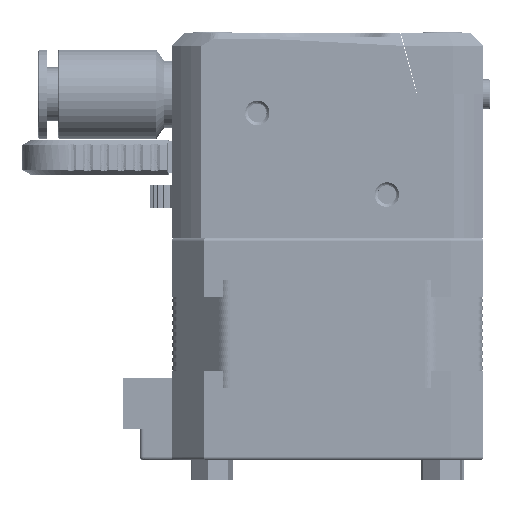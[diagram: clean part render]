
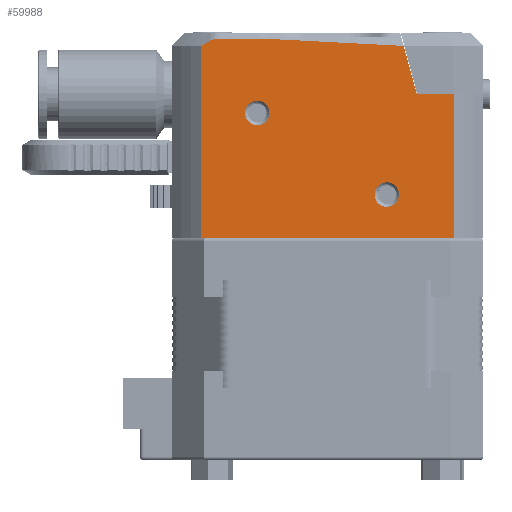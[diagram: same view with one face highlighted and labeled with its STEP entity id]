
A CAD part, left-side view. The second image highlights one B-rep face of the part: STEP entity #59988.
In plain terms, the highlighted planar face has unit normal (-1, 0, 0).
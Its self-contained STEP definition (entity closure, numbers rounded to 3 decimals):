
#1 = CARTESIAN_POINT ( 'NONE',  ( -25.835, 23.173, 7.641 ) ) ;
#1718 = LINE ( 'NONE', #67495, #80182 ) ;
#1749 = DIRECTION ( 'NONE',  ( 0., 1., 0. ) ) ;
#3431 = EDGE_CURVE ( 'NONE', #52992, #45158, #74521, .T. ) ;
#3718 = LINE ( 'NONE', #54596, #64612 ) ;
#4363 = ORIENTED_EDGE ( 'NONE', *, *, #20073, .F. ) ;
#4902 = CARTESIAN_POINT ( 'NONE',  ( -25.835, 30.723, -10.809 ) ) ;
#7195 = EDGE_CURVE ( 'NONE', #62579, #83664, #82438, .T. ) ;
#7438 = CARTESIAN_POINT ( 'NONE',  ( -25.835, 3.452, 15.016 ) ) ;
#7691 = ORIENTED_EDGE ( 'NONE', *, *, #64118, .T. ) ;
#8184 = CARTESIAN_POINT ( 'NONE',  ( -25.835, 23.173, 5.991 ) ) ;
#8214 = LINE ( 'NONE', #15453, #51223 ) ;
#8666 = VECTOR ( 'NONE', #23237, 1000. ) ;
#8974 = DIRECTION ( 'NONE',  ( 0., 0., -1. ) ) ;
#9916 = ORIENTED_EDGE ( 'NONE', *, *, #15875, .T. ) ;
#12600 = VECTOR ( 'NONE', #32313, 1000. ) ;
#12628 = CARTESIAN_POINT ( 'NONE',  ( -25.835, 23.173, 4.341 ) ) ;
#14152 = ORIENTED_EDGE ( 'NONE', *, *, #23084, .T. ) ;
#15101 = ORIENTED_EDGE ( 'NONE', *, *, #31624, .T. ) ;
#15453 = CARTESIAN_POINT ( 'NONE',  ( -25.835, 30.723, -10.809 ) ) ;
#15875 = EDGE_CURVE ( 'NONE', #42758, #80346, #48815, .T. ) ;
#16912 = EDGE_CURVE ( 'NONE', #67396, #60597, #48598, .T. ) ;
#17111 = VERTEX_POINT ( 'NONE', #76508 ) ;
#17554 = CARTESIAN_POINT ( 'NONE',  ( -25.835, -3.277, 8.491 ) ) ;
#17675 = CARTESIAN_POINT ( 'NONE',  ( -25.835, 30.723, 14.991 ) ) ;
#17954 = VERTEX_POINT ( 'NONE', #68536 ) ;
#18147 = ORIENTED_EDGE ( 'NONE', *, *, #78511, .F. ) ;
#18239 = ORIENTED_EDGE ( 'NONE', *, *, #7195, .T. ) ;
#19395 = DIRECTION ( 'NONE',  ( 1., 0., 0. ) ) ;
#20073 = EDGE_CURVE ( 'NONE', #45158, #50142, #81722, .T. ) ;
#20539 = CARTESIAN_POINT ( 'NONE',  ( -25.835, 5.723, -3.359 ) ) ;
#23084 = EDGE_CURVE ( 'NONE', #61950, #50142, #8214, .T. ) ;
#23237 = DIRECTION ( 'NONE',  ( 0., -1., 0. ) ) ;
#24793 = AXIS2_PLACEMENT_3D ( 'NONE', #33298, #26895, #52959 ) ;
#24937 = EDGE_LOOP ( 'NONE', ( #79878, #73436 ) ) ;
#25952 = VERTEX_POINT ( 'NONE', #20539 ) ;
#26695 = CARTESIAN_POINT ( 'NONE',  ( -25.835, 23.173, 5.991 ) ) ;
#26895 = DIRECTION ( 'NONE',  ( 1., 0., 0. ) ) ;
#28948 = CIRCLE ( 'NONE', #39884, 1.65 ) ;
#29166 = EDGE_LOOP ( 'NONE', ( #9916, #15101 ) ) ;
#29828 = B_SPLINE_CURVE_WITH_KNOTS ( 'NONE', 3,
 ( #50203, #49788, #30951, #17675 ),
 .UNSPECIFIED., .F., .F.,
 ( 4, 4 ),
 ( 0.002, 0.003 ),
 .UNSPECIFIED. ) ;
#30951 = CARTESIAN_POINT ( 'NONE',  ( -25.835, 30.379, 15.207 ) ) ;
#31299 = CARTESIAN_POINT ( 'NONE',  ( -25.835, 5.723, -5.009 ) ) ;
#31624 = EDGE_CURVE ( 'NONE', #80346, #42758, #74849, .T. ) ;
#32162 = EDGE_CURVE ( 'NONE', #83664, #17954, #29828, .T. ) ;
#32313 = DIRECTION ( 'NONE',  ( 0., -0.263, -0.965 ) ) ;
#32922 = CARTESIAN_POINT ( 'NONE',  ( -25.835, 28.913, 15.956 ) ) ;
#33298 = CARTESIAN_POINT ( 'NONE',  ( -25.835, 5.723, -5.009 ) ) ;
#33308 = CARTESIAN_POINT ( 'NONE',  ( -25.835, -3.277, -10.809 ) ) ;
#34270 = DIRECTION ( 'NONE',  ( 0., -1., 0. ) ) ;
#35208 = DIRECTION ( 'NONE',  ( 0., 0., -1. ) ) ;
#36166 = DIRECTION ( 'NONE',  ( 0., -0.999, -0.052 ) ) ;
#36303 = AXIS2_PLACEMENT_3D ( 'NONE', #57878, #45087, #63853 ) ;
#36848 = EDGE_CURVE ( 'NONE', #25952, #17111, #28948, .T. ) ;
#38086 = CARTESIAN_POINT ( 'NONE',  ( -25.835, 29.687, 15.631 ) ) ;
#39405 = DIRECTION ( 'NONE',  ( 1., 0., 0. ) ) ;
#39884 = AXIS2_PLACEMENT_3D ( 'NONE', #31299, #70597, #44569 ) ;
#42525 = CARTESIAN_POINT ( 'NONE',  ( -25.835, 1.673, 8.491 ) ) ;
#42758 = VERTEX_POINT ( 'NONE', #1 ) ;
#42872 = CARTESIAN_POINT ( 'NONE',  ( -25.835, 28.495, 15.991 ) ) ;
#43960 = CARTESIAN_POINT ( 'NONE',  ( -25.835, 29.687, 15.631 ) ) ;
#44183 = VECTOR ( 'NONE', #35208, 1000. ) ;
#44553 = EDGE_CURVE ( 'NONE', #67396, #62579, #3718, .T. ) ;
#44569 = DIRECTION ( 'NONE',  ( 0., 1., 0. ) ) ;
#45087 = DIRECTION ( 'NONE',  ( 1., 0., 0. ) ) ;
#45158 = VERTEX_POINT ( 'NONE', #17554 ) ;
#45994 = EDGE_LOOP ( 'NONE', ( #64546, #18147, #64000, #52713, #18239, #46214, #7691, #14152, #4363 ) ) ;
#46214 = ORIENTED_EDGE ( 'NONE', *, *, #32162, .T. ) ;
#46376 = DIRECTION ( 'NONE',  ( 0., 1., 0. ) ) ;
#48598 = LINE ( 'NONE', #74606, #81557 ) ;
#48815 = CIRCLE ( 'NONE', #77416, 1.65 ) ;
#49788 = CARTESIAN_POINT ( 'NONE',  ( -25.835, 30.034, 15.421 ) ) ;
#50142 = VERTEX_POINT ( 'NONE', #33308 ) ;
#50203 = CARTESIAN_POINT ( 'NONE',  ( -25.835, 29.687, 15.631 ) ) ;
#50761 = EDGE_CURVE ( 'NONE', #17111, #25952, #52085, .T. ) ;
#51058 = FACE_BOUND ( 'NONE', #29166, .T. ) ;
#51223 = VECTOR ( 'NONE', #34270, 1000. ) ;
#51307 = CARTESIAN_POINT ( 'NONE',  ( -25.835, 29.313, 15.831 ) ) ;
#52085 = CIRCLE ( 'NONE', #24793, 1.65 ) ;
#52713 = ORIENTED_EDGE ( 'NONE', *, *, #44553, .T. ) ;
#52959 = DIRECTION ( 'NONE',  ( 0., 1., 0. ) ) ;
#52992 = VERTEX_POINT ( 'NONE', #74049 ) ;
#54596 = CARTESIAN_POINT ( 'NONE',  ( -25.835, 27.776, 15.991 ) ) ;
#57194 = AXIS2_PLACEMENT_3D ( 'NONE', #8184, #39405, #1749 ) ;
#57878 = CARTESIAN_POINT ( 'NONE',  ( -25.835, 30.723, -0.959 ) ) ;
#58795 = CARTESIAN_POINT ( 'NONE',  ( -25.835, 3.923, 16.741 ) ) ;
#59988 = ADVANCED_FACE ( 'NONE', ( #64700, #51058, #83480 ), #70703, .F. ) ;
#60597 = VERTEX_POINT ( 'NONE', #7438 ) ;
#61378 = DIRECTION ( 'NONE',  ( 0., 1., 0. ) ) ;
#61950 = VERTEX_POINT ( 'NONE', #4902 ) ;
#62579 = VERTEX_POINT ( 'NONE', #42872 ) ;
#63853 = DIRECTION ( 'NONE',  ( 0., 1., 0. ) ) ;
#64000 = ORIENTED_EDGE ( 'NONE', *, *, #16912, .F. ) ;
#64118 = EDGE_CURVE ( 'NONE', #17954, #61950, #1718, .T. ) ;
#64546 = ORIENTED_EDGE ( 'NONE', *, *, #3431, .F. ) ;
#64612 = VECTOR ( 'NONE', #61378, 1000. ) ;
#64700 = FACE_BOUND ( 'NONE', #24937, .T. ) ;
#64767 = LINE ( 'NONE', #58795, #12600 ) ;
#67230 = CARTESIAN_POINT ( 'NONE',  ( -25.835, -3.277, -0.959 ) ) ;
#67396 = VERTEX_POINT ( 'NONE', #76342 ) ;
#67495 = CARTESIAN_POINT ( 'NONE',  ( -25.835, 30.723, -0.959 ) ) ;
#68536 = CARTESIAN_POINT ( 'NONE',  ( -25.835, 30.723, 14.991 ) ) ;
#70597 = DIRECTION ( 'NONE',  ( 1., 0., 0. ) ) ;
#70703 = PLANE ( 'NONE',  #36303 ) ;
#70964 = CARTESIAN_POINT ( 'NONE',  ( -25.835, 29.506, 15.74 ) ) ;
#71380 = CARTESIAN_POINT ( 'NONE',  ( -25.835, 28.707, 15.991 ) ) ;
#73436 = ORIENTED_EDGE ( 'NONE', *, *, #50761, .T. ) ;
#74049 = CARTESIAN_POINT ( 'NONE',  ( -25.835, 1.673, 8.491 ) ) ;
#74521 = LINE ( 'NONE', #42525, #8666 ) ;
#74606 = CARTESIAN_POINT ( 'NONE',  ( -25.835, 30.635, 16.428 ) ) ;
#74849 = CIRCLE ( 'NONE', #57194, 1.65 ) ;
#76342 = CARTESIAN_POINT ( 'NONE',  ( -25.835, 22.223, 15.991 ) ) ;
#76508 = CARTESIAN_POINT ( 'NONE',  ( -25.835, 5.723, -6.659 ) ) ;
#77416 = AXIS2_PLACEMENT_3D ( 'NONE', #26695, #19395, #46376 ) ;
#78511 = EDGE_CURVE ( 'NONE', #60597, #52992, #64767, .T. ) ;
#78601 = CARTESIAN_POINT ( 'NONE',  ( -25.835, 28.495, 15.991 ) ) ;
#79878 = ORIENTED_EDGE ( 'NONE', *, *, #36848, .T. ) ;
#80182 = VECTOR ( 'NONE', #8974, 1000. ) ;
#80346 = VERTEX_POINT ( 'NONE', #12628 ) ;
#81557 = VECTOR ( 'NONE', #36166, 1000. ) ;
#81722 = LINE ( 'NONE', #67230, #44183 ) ;
#82438 = B_SPLINE_CURVE_WITH_KNOTS ( 'NONE', 3,
 ( #78601, #71380, #32922, #51307, #70964, #38086 ),
 .UNSPECIFIED., .F., .F.,
 ( 4, 2, 4 ),
 ( 0., 0.001, 0.001 ),
 .UNSPECIFIED. ) ;
#83480 = FACE_OUTER_BOUND ( 'NONE', #45994, .T. ) ;
#83664 = VERTEX_POINT ( 'NONE', #43960 ) ;
